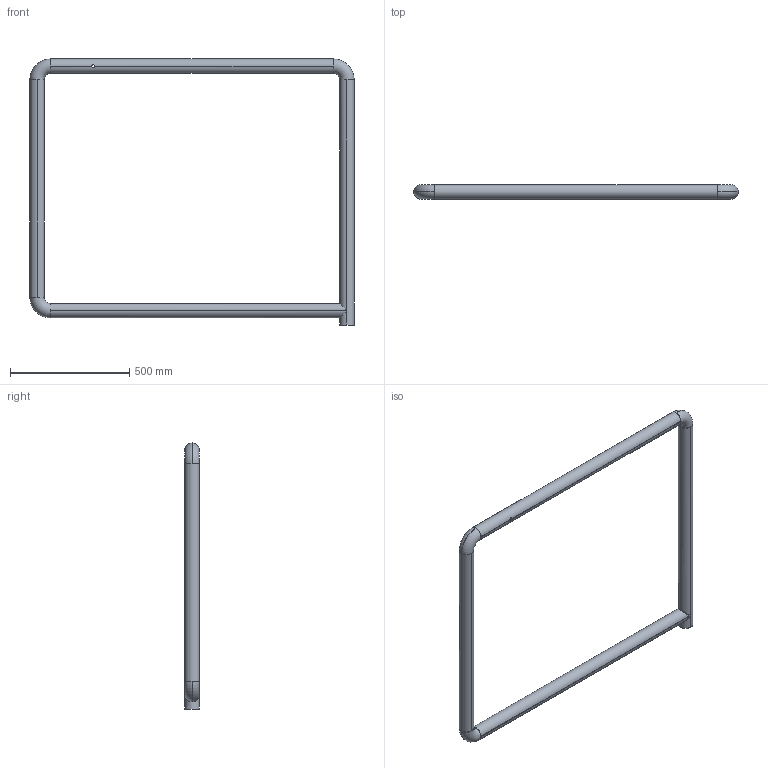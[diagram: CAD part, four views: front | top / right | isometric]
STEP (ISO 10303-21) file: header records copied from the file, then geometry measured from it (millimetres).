
FILE_DESCRIPTION (( 'STEP AP214' ), '1' );
FILE_NAME ('CCJ029-231 - MAIN COURANTE PORTILLON A1-A2.STEP', '2024-01-10T15:20:12', ( '' ), ( '' ), 'SwSTEP 2.0', 'SolidWorks 2021', '' );
FILE_SCHEMA (( 'AUTOMOTIVE_DESIGN' ));
Length unit declared in the file: millimetre
Products named in the file (1): CCJ029-231 - MAIN COURANTE PORTILLON A1-A2
Bounding box: 1360.3 x 60.3 x 1116 mm (x, y, z)
Volume: 1690677.2 mm3; surface area: 1690783.5 mm2
Topology: 1 solids, 1 shells, 39 faces, 122 edges, 80 vertices
Faces by surface type: cylinder 26, torus 12, plane 1
Entity records: 2180 total; most frequent: CARTESIAN_POINT 1038, ORIENTED_EDGE 244, DIRECTION 238, EDGE_CURVE 122, AXIS2_PLACEMENT_3D 104, VERTEX_POINT 80, CIRCLE 64, EDGE_LOOP 44
